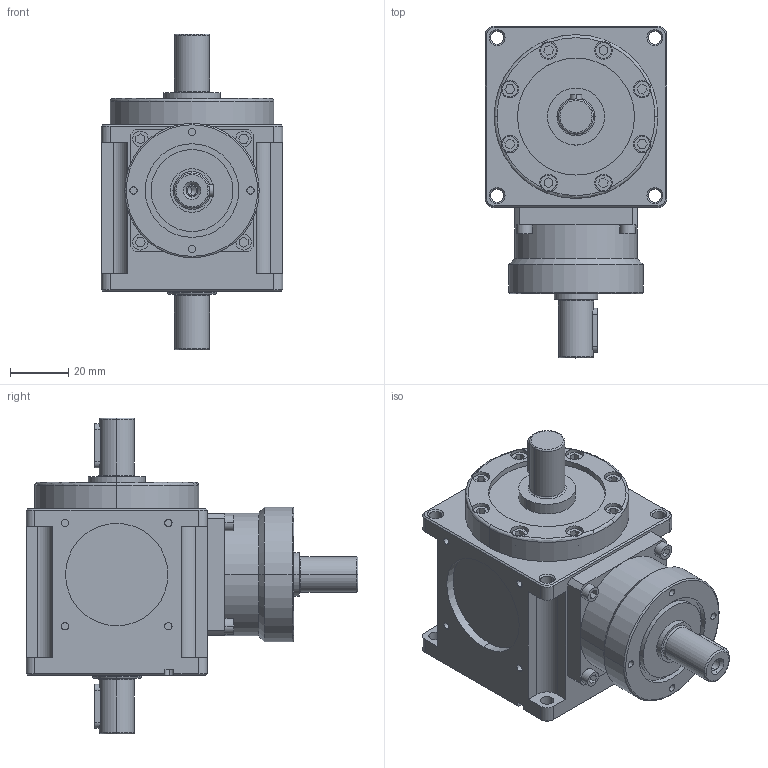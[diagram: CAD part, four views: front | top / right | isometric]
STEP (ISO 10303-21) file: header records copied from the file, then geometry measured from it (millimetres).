
FILE_DESCRIPTION (( 'STEP AP214' ), '1' );
FILE_NAME ('LMY062A-002-2P.STEP', '2025-05-19T05:56:00', ( '微软用户' ), ( '微软中国' ), 'SwSTEP 2.0', 'SolidWorks 2024', '' );
FILE_SCHEMA (( 'AUTOMOTIVE_DESIGN' ));
Length unit declared in the file: millimetre
Products named in the file (1): LMY062A-002-2P
Bounding box: 62 x 113.5 x 108 mm (x, y, z)
Volume: 264609.8 mm3; surface area: 35601.3 mm2
Topology: 1 solids, 1 shells, 395 faces, 939 edges, 603 vertices
Faces by surface type: plane 193, cylinder 152, cone 30, torus 20
Entity records: 11728 total; most frequent: CARTESIAN_POINT 2222, DIRECTION 2087, ORIENTED_EDGE 1874, EDGE_CURVE 937, AXIS2_PLACEMENT_3D 776, VERTEX_POINT 603, VECTOR 535, LINE 535
